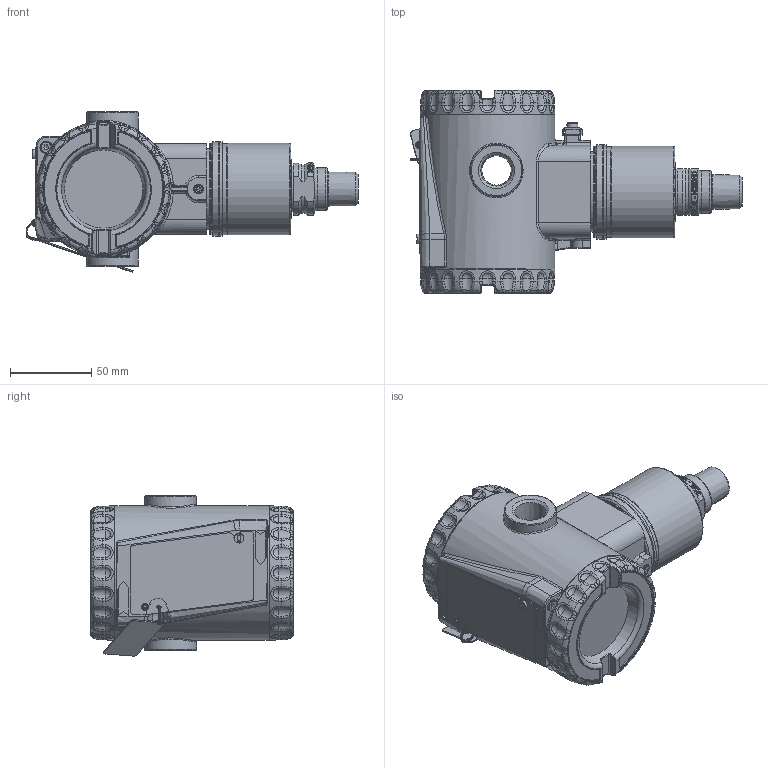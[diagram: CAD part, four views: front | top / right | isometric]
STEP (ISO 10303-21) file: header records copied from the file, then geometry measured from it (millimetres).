
FILE_DESCRIPTION(/* description */ (''),/* implementation_level */ '2;1');
FILE_NAME(/* name */ 'F:\Area\Desenvolvimento_2\Projects\Sensor\projetos\LD400-3d\dimensionais 3D clientes\LD400G\LD400G4 1-2 NPT macho.stp',/* time_stamp */ '2023-02-02T16:47:10-03:00',/* author */ ('inventor02'),/* organization */ (''),/* preprocessor_version */ 'ST-DEVELOPER v17',/* originating_system */ 'Autodesk Inventor 2019',/* authorisation */ '');
FILE_SCHEMA (('CONFIG_CONTROL_DESIGN'));
Products named in the file (27): LD400G4 1-2 NPT macho; SENSOR 29X FX4 1-2NPT macho; 101-B-5896-01 capa fx4; 101-C-3677-06 conexao ao processo 1-2NPT; 101-D-1309-04 pescoço LD29x usinado; 101-B-1611-06 conexão 1-2NPT macho; Carcaça 400 com tampas e plaqueta sem letras; 101-D-0845-05 carcaça LD400 sem letras; 101-B-3614-03-tampa 400 sem letras; Tampa visor 400 montada sem letras; 101-B-3612-05 tampa visor 400 sem letras; 101-A-6107; oring 2034; 00034775-0; WHW_250; DIN 915 - M6 x 10; Chapa aterramento externo; 201-A-1771-02 inserto terra recartilhado; AS 1969 - ST4,2; ISO 1207 - M4 x 8; ANSI B18.3.1M - M4x0,7 x 8; Subconjunto plaqueta 400; plaqueta 400 em branco; Parafuso da Plaqueta; Rebite da Plaqueta; 096-A-0169-03; 101-A-0502-01
Assembly tree (27 placements, depth 4):
  LD400G4 1-2 NPT macho
    SENSOR 29X FX4 1-2NPT macho
      101-B-5896-01 capa fx4
      101-C-3677-06 conexao ao processo 1-2NPT
      101-D-1309-04 pescoço LD29x usinado
      101-B-1611-06 conexão 1-2NPT macho
    Carcaça 400 com tampas e plaqueta sem letras
      101-D-0845-05 carcaça LD400 sem letras
      101-B-3614-03-tampa 400 sem letras
      Tampa visor 400 montada sem letras
        101-B-3612-05 tampa visor 400 sem letras
        101-A-6107
        oring 2034
        00034775-0
        WHW_250
      DIN 915 - M6 x 10
      Chapa aterramento externo
      201-A-1771-02 inserto terra recartilhado
      AS 1969 - ST4,2
      ISO 1207 - M4 x 8
      ANSI B18.3.1M - M4x0,7 x 8  x2
      Subconjunto plaqueta 400
        plaqueta 400 em branco
        Parafuso da Plaqueta
        Rebite da Plaqueta
        096-A-0169-03
        101-A-0502-01
Bounding box: 204.55 x 125 x 98.64 mm (x, y, z)
Volume: 447677.7 mm3; surface area: 187650.2 mm2
Topology: 23 solids, 23 shells, 1958 faces, 4851 edges, 2959 vertices
Faces by surface type: plane 548, bspline 513, cylinder 437, torus 271, cone 134, sphere 55
Full cylindrical faces by diameter (mm): 2 x2, 2.1 x1, 2.2 x1, 2.459 x3, 2.7 x1, 3 x1, 3.242 x3, 3.5 x4, 3.571 x1, 4 x4, 4.3 x2, 4.4 x1, 4.917 x1, 6 x2, 6.1 x2, 6.2 x1, 7 x2, 7.6 x2, 8 x1, 17.5 x1, 18 x1, 18.3 x2, 21.6 x1, 26.5 x2, 28.399 x1, 32 x2, 32.2 x1, 34.15 x1, 35.15 x1, 35.2 x1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
Entity records: 75775 total; most frequent: CARTESIAN_POINT 30562, ORIENTED_EDGE 9534, DIRECTION 8849, EDGE_CURVE 4767, AXIS2_PLACEMENT_3D 3665, VERTEX_POINT 2930, CIRCLE 2093, EDGE_LOOP 2045
